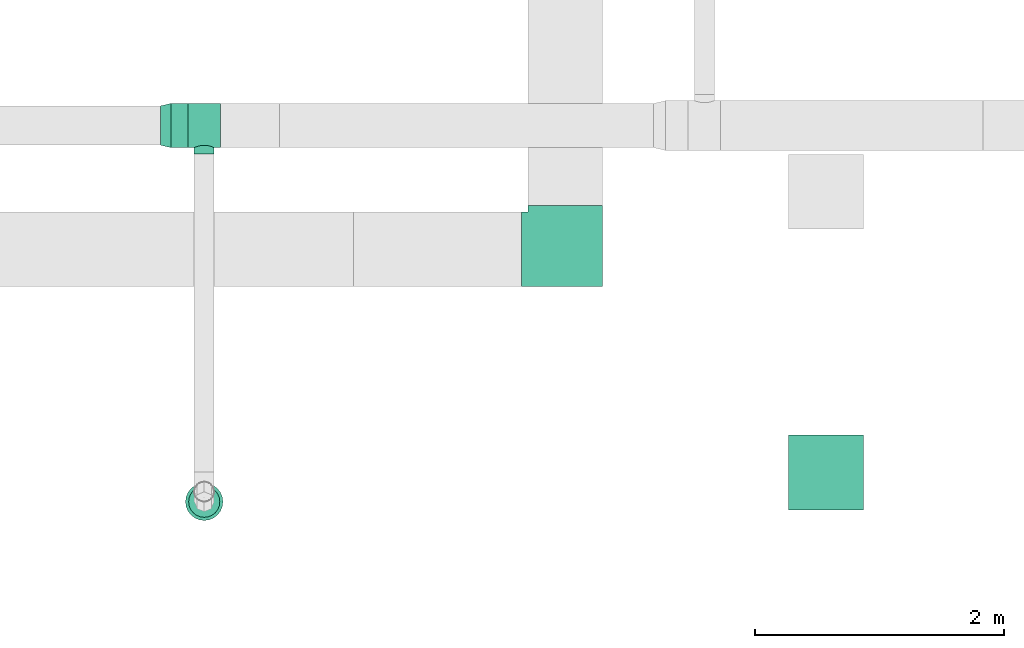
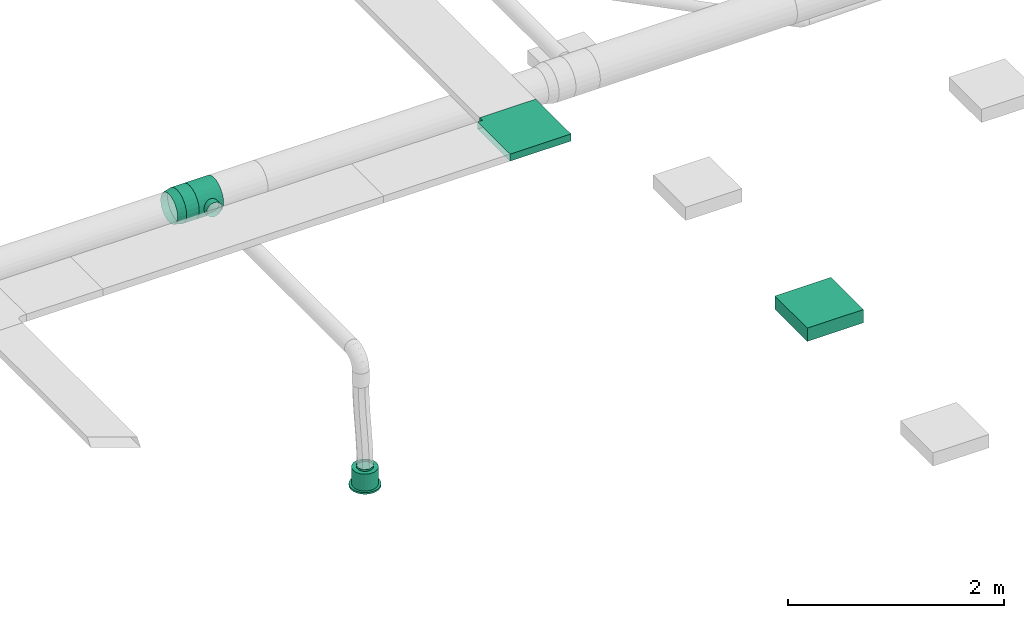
# One storey, part 63 of 374: 2 distribution elements, 2 flow fittings, 1 flow segment, 1 flow terminal.
"""IFC2X3 building model written with IfcOpenShell, lengths in metres."""

from ifc_helpers import new_model, si_unit, direction, frame, frame_2d, origin, place, context, subcontext, project, spatial, rectangle, extrude, open_shell, surface_model, source, transform, mapped, element, save


model = new_model("IFC2X3")

# Units and contexts
model_context = context("Model", 3, precision=1e-05, world=origin(), true_north=direction((-0.4480736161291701, 0.8939966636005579)))
body_context = subcontext(model_context, "Body", "Model", "MODEL_VIEW")
ifc_project = project(units=[si_unit("LENGTHUNIT", "METRE"), si_unit("AREAUNIT", "SQUARE_METRE"), si_unit("VOLUMEUNIT", "CUBIC_METRE"), si_unit("PLANEANGLEUNIT", "RADIAN"), si_unit("THERMODYNAMICTEMPERATUREUNIT", "KELVIN"), si_unit("MASSUNIT", "GRAM", prefix="KILO"), si_unit("TIMEUNIT", "SECOND")], contexts=[model_context])

# Site, building, storey
site_placement = place(None, origin())
site = spatial("IfcSite", under=ifc_project, at=site_placement, Name="Site 1", CompositionType="ELEMENT")
building_placement = place(site_placement, origin())
building = spatial("IfcBuilding", under=site, at=building_placement, Name="Undefined", CompositionType="ELEMENT")
storey_placement = place(building_placement, origin())
storey = spatial("IfcBuildingStorey", under=building, at=storey_placement, Name="Rez de chauss\x8ee", CompositionType="ELEMENT", Elevation=0.0)

# Flow terminal
shared_shape_1 = source(origin(), body_context, "Body", "SurfaceModel", [
    surface_model("IfcFaceBasedSurfaceModel", [(0.0, 0.0, 0.0), (0.03915785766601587, 0.0, 0.0), (0.03915785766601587, 0.020000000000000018, 0.0), (3.552713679e-15, 0.020000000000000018, 0.0), (0.07698144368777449, 0.0, -0.010134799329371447), (0.07698144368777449, 0.020000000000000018, -0.010134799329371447), (0.11089314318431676, 0.0, -0.02971372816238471), (0.11089314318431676, 0.020000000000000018, -0.02971372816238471), (0.13858192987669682, 0.0, -0.05740251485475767), (0.13858192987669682, 0.020000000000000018, -0.05740251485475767), (0.15816085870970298, 0.0, -0.09131421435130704), (0.15816085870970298, 0.020000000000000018, -0.09131421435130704), (0.16829565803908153, 0.0, -0.12913780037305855), (0.16829565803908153, 0.020000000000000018, -0.12913780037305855), (0.16829565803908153, 0.0, -0.16829565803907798), (0.16829565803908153, 0.020000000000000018, -0.16829565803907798), (0.15816085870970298, 0.0, -0.20611924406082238), (0.15816085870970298, 0.020000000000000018, -0.20611924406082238), (0.13858192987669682, 0.0, -0.24003094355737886), (0.13858192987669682, 0.020000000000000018, -0.24003094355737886), (0.11089314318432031, 0.0, -0.2677197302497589), (0.11089314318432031, 0.020000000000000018, -0.2677197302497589), (0.07698144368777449, 0.0, -0.2872986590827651), (0.07698144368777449, 0.020000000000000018, -0.2872986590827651), (0.039157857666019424, 0.0, -0.29743345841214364), (0.039157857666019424, 0.020000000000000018, -0.29743345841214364), (3.552713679e-15, 0.0, -0.29743345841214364), (3.552713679e-15, 0.020000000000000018, -0.29743345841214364), (-0.03782358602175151, 0.0, -0.2872986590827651), (-0.03782358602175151, 0.020000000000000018, -0.2872986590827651), (-0.07173528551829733, 0.0, -0.2677197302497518), (-0.07173528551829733, 0.020000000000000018, -0.2677197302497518), (-0.0994240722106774, 0.0, -0.24003094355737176), (-0.0994240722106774, 0.020000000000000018, -0.24003094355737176), (-0.11900300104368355, 0.0, -0.2061192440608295), (-0.11900300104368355, 0.020000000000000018, -0.2061192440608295), (-0.1291378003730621, 0.0, -0.16829565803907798), (-0.1291378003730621, 0.020000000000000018, -0.16829565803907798), (-0.1291378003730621, 0.0, -0.12913780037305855), (-0.1291378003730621, 0.020000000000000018, -0.12913780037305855), (-0.11900300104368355, 0.0, -0.09131421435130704), (-0.11900300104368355, 0.020000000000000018, -0.09131421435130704), (-0.0994240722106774, 0.0, -0.05740251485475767), (-0.0994240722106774, 0.020000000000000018, -0.05740251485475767), (-0.07173528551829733, 0.0, -0.029713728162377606), (-0.07173528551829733, 0.020000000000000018, -0.029713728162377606), (-0.03782358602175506, 0.0, -0.010134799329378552), (-0.03782358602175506, 0.020000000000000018, -0.010134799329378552), (0.019578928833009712, 0.0, -0.14871672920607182), (0.019578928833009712, 0.020000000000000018, -0.14871672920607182), (0.003263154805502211, 0.020000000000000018, -0.02478612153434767), (0.035894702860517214, 0.020000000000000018, -0.02478612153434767), (0.035894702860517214, 0.20999999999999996, -0.02478612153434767), (0.003263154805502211, 0.20999999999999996, -0.02478612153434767), (0.06741435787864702, 0.020000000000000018, -0.033231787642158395), (0.06741435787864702, 0.20999999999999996, -0.033231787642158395), (0.0956741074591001, 0.020000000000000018, -0.04954756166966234), (0.0956741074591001, 0.20999999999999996, -0.04954756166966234), (0.11874809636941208, 0.020000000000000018, -0.07262155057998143), (0.11874809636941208, 0.20999999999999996, -0.07262155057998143), (0.13506387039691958, 0.020000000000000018, -0.10088130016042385), (0.13506387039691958, 0.20999999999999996, -0.10088130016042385), (0.1435095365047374, 0.020000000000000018, -0.13240095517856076), (0.1435095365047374, 0.20999999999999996, -0.13240095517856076), (0.1435095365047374, 0.020000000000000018, -0.16503250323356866), (0.1435095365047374, 0.20999999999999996, -0.16503250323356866), (0.13506387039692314, 0.020000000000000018, -0.19655215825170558), (0.13506387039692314, 0.20999999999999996, -0.19655215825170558), (0.11874809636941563, 0.020000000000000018, -0.2248119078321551), (0.11874809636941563, 0.20999999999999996, -0.2248119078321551), (0.09567410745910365, 0.020000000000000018, -0.24788589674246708), (0.09567410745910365, 0.20999999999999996, -0.24788589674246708), (0.06741435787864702, 0.020000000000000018, -0.26420167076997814), (0.06741435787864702, 0.20999999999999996, -0.26420167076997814), (0.035894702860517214, 0.020000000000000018, -0.27264733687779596), (0.035894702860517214, 0.20999999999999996, -0.27264733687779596), (0.0032631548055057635, 0.020000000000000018, -0.27264733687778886), (0.0032631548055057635, 0.20999999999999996, -0.27264733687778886), (-0.028256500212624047, 0.020000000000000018, -0.26420167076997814), (-0.028256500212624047, 0.20999999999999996, -0.26420167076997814), (-0.05651624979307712, 0.020000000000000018, -0.2478858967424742), (-0.05651624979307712, 0.20999999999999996, -0.2478858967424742), (-0.07959023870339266, 0.020000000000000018, -0.2248119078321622), (-0.07959023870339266, 0.20999999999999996, -0.2248119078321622), (-0.09590601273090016, 0.020000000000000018, -0.19655215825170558), (-0.09590601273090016, 0.20999999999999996, -0.19655215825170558), (-0.10435167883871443, 0.020000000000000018, -0.16503250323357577), (-0.10435167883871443, 0.20999999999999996, -0.16503250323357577), (-0.10435167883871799, 0.020000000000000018, -0.13240095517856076), (-0.10435167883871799, 0.20999999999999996, -0.13240095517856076), (-0.09590601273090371, 0.020000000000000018, -0.10088130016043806), (-0.09590601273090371, 0.20999999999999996, -0.10088130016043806), (-0.07959023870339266, 0.020000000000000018, -0.07262155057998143), (-0.07959023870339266, 0.20999999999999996, -0.07262155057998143), (-0.056516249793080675, 0.020000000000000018, -0.04954756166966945), (-0.056516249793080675, 0.20999999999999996, -0.04954756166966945), (-0.028256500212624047, 0.020000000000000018, -0.033231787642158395), (-0.028256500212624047, 0.20999999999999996, -0.033231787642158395), (0.019578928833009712, 0.20999999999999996, -0.14871672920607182), (0.009136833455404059, 0.20999999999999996, -0.06940114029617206), (0.030021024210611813, 0.20999999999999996, -0.06940114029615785), (0.030021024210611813, 0.22999999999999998, -0.06940114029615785), (0.009136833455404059, 0.22999999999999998, -0.06940114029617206), (0.05019360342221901, 0.20999999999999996, -0.07480636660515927), (0.05019360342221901, 0.22999999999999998, -0.07480636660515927), (0.06827984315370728, 0.20999999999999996, -0.08524846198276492), (0.06827984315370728, 0.22999999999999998, -0.08524846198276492), (0.0830471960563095, 0.20999999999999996, -0.10001581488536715), (0.0830471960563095, 0.22999999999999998, -0.10001581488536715), (0.0934892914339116, 0.20999999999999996, -0.11810205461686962), (0.0934892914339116, 0.22999999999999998, -0.11810205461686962), (0.09889451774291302, 0.20999999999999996, -0.13827463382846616), (0.09889451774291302, 0.22999999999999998, -0.13827463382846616), (0.09889451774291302, 0.20999999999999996, -0.15915882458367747), (0.09889451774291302, 0.22999999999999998, -0.15915882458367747), (0.09348929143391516, 0.20999999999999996, -0.179331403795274), (0.09348929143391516, 0.22999999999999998, -0.179331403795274), (0.0830471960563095, 0.20999999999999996, -0.19741764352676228), (0.0830471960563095, 0.22999999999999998, -0.19741764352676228), (0.06827984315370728, 0.20999999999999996, -0.2121849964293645), (0.06827984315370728, 0.22999999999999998, -0.2121849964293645), (0.05019360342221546, 0.20999999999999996, -0.22262709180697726), (0.05019360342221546, 0.22999999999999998, -0.22262709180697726), (0.030021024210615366, 0.20999999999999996, -0.22803231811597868), (0.030021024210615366, 0.22999999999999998, -0.22803231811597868), (0.009136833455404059, 0.20999999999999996, -0.22803231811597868), (0.009136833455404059, 0.22999999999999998, -0.22803231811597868), (-0.011035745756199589, 0.20999999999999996, -0.22262709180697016), (-0.011035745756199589, 0.22999999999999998, -0.22262709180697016), (-0.0291219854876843, 0.20999999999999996, -0.2121849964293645), (-0.0291219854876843, 0.22999999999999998, -0.2121849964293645), (-0.043889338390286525, 0.20999999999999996, -0.19741764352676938), (-0.043889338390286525, 0.22999999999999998, -0.19741764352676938), (-0.05433143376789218, 0.20999999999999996, -0.17933140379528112), (-0.05433143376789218, 0.22999999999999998, -0.17933140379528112), (-0.05973666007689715, 0.20999999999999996, -0.15915882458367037), (-0.05973666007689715, 0.22999999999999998, -0.15915882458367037), (-0.0597366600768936, 0.20999999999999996, -0.13827463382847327), (-0.0597366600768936, 0.22999999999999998, -0.13827463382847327), (-0.05433143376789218, 0.20999999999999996, -0.11810205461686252), (-0.05433143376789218, 0.22999999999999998, -0.11810205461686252), (-0.043889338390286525, 0.20999999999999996, -0.10001581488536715), (-0.043889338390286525, 0.22999999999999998, -0.10001581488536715), (-0.02912198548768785, 0.20999999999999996, -0.08524846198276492), (-0.02912198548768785, 0.22999999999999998, -0.08524846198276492), (-0.011035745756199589, 0.20999999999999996, -0.07480636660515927), (-0.011035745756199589, 0.22999999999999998, -0.07480636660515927)], [open_shell([[[0, 1, 2, 3]], [[1, 4, 5, 2]], [[4, 6, 7, 5]], [[6, 8, 9, 7]], [[8, 10, 11, 9]], [[10, 12, 13, 11]], [[12, 14, 15, 13]], [[14, 16, 17, 15]], [[16, 18, 19, 17]], [[18, 20, 21, 19]], [[20, 22, 23, 21]], [[22, 24, 25, 23]], [[24, 26, 27, 25]], [[26, 28, 29, 27]], [[28, 30, 31, 29]], [[30, 32, 33, 31]], [[32, 34, 35, 33]], [[34, 36, 37, 35]], [[36, 38, 39, 37]], [[38, 40, 41, 39]], [[40, 42, 43, 41]], [[42, 44, 45, 43]], [[44, 46, 47, 45]], [[46, 0, 3, 47]], [[48, 1, 0]], [[48, 4, 1]], [[48, 6, 4]], [[48, 8, 6]], [[48, 10, 8]], [[48, 12, 10]], [[48, 14, 12]], [[48, 16, 14]], [[48, 18, 16]], [[48, 20, 18]], [[48, 22, 20]], [[48, 24, 22]], [[48, 26, 24]], [[48, 28, 26]], [[48, 30, 28]], [[48, 32, 30]], [[48, 34, 32]], [[48, 36, 34]], [[48, 38, 36]], [[48, 40, 38]], [[48, 42, 40]], [[48, 44, 42]], [[48, 46, 44]], [[48, 0, 46]], [[49, 47, 3]], [[49, 45, 47]], [[49, 43, 45]], [[49, 41, 43]], [[49, 39, 41]], [[49, 37, 39]], [[49, 35, 37]], [[49, 33, 35]], [[49, 31, 33]], [[49, 29, 31]], [[49, 27, 29]], [[49, 25, 27]], [[49, 23, 25]], [[49, 21, 23]], [[49, 19, 21]], [[49, 17, 19]], [[49, 15, 17]], [[49, 13, 15]], [[49, 11, 13]], [[49, 9, 11]], [[49, 7, 9]], [[49, 5, 7]], [[49, 2, 5]], [[49, 3, 2]], [[50, 51, 52, 53]], [[51, 54, 55, 52]], [[54, 56, 57, 55]], [[56, 58, 59, 57]], [[58, 60, 61, 59]], [[60, 62, 63, 61]], [[62, 64, 65, 63]], [[64, 66, 67, 65]], [[66, 68, 69, 67]], [[68, 70, 71, 69]], [[70, 72, 73, 71]], [[72, 74, 75, 73]], [[74, 76, 77, 75]], [[76, 78, 79, 77]], [[78, 80, 81, 79]], [[80, 82, 83, 81]], [[82, 84, 85, 83]], [[84, 86, 87, 85]], [[86, 88, 89, 87]], [[88, 90, 91, 89]], [[90, 92, 93, 91]], [[92, 94, 95, 93]], [[94, 96, 97, 95]], [[96, 50, 53, 97]], [[49, 51, 50]], [[49, 54, 51]], [[49, 56, 54]], [[49, 58, 56]], [[49, 60, 58]], [[49, 62, 60]], [[49, 64, 62]], [[49, 66, 64]], [[49, 68, 66]], [[49, 70, 68]], [[49, 72, 70]], [[49, 74, 72]], [[49, 76, 74]], [[49, 78, 76]], [[49, 80, 78]], [[49, 82, 80]], [[49, 84, 82]], [[49, 86, 84]], [[49, 88, 86]], [[49, 90, 88]], [[49, 92, 90]], [[49, 94, 92]], [[49, 96, 94]], [[49, 50, 96]], [[98, 97, 53]], [[98, 95, 97]], [[98, 93, 95]], [[98, 91, 93]], [[98, 89, 91]], [[98, 87, 89]], [[98, 85, 87]], [[98, 83, 85]], [[98, 81, 83]], [[98, 79, 81]], [[98, 77, 79]], [[98, 75, 77]], [[98, 73, 75]], [[98, 71, 73]], [[98, 69, 71]], [[98, 67, 69]], [[98, 65, 67]], [[98, 63, 65]], [[98, 61, 63]], [[98, 59, 61]], [[98, 57, 59]], [[98, 55, 57]], [[98, 52, 55]], [[98, 53, 52]], [[99, 100, 101, 102]], [[100, 103, 104, 101]], [[103, 105, 106, 104]], [[105, 107, 108, 106]], [[107, 109, 110, 108]], [[109, 111, 112, 110]], [[111, 113, 114, 112]], [[113, 115, 116, 114]], [[115, 117, 118, 116]], [[117, 119, 120, 118]], [[119, 121, 122, 120]], [[121, 123, 124, 122]], [[123, 125, 126, 124]], [[125, 127, 128, 126]], [[127, 129, 130, 128]], [[129, 131, 132, 130]], [[131, 133, 134, 132]], [[133, 135, 136, 134]], [[135, 137, 138, 136]], [[137, 139, 140, 138]], [[139, 141, 142, 140]], [[141, 143, 144, 142]], [[143, 145, 146, 144]], [[145, 99, 102, 146]]])]),
])
flow_terminal_placement = place(storey_placement, origin())
element("IfcFlowTerminal", 1, at=flow_terminal_placement, inside=storey, Name="Air diffuseur - bouche", ObjectType="Air diffuseur - bouche", context=body_context, shape_type="MappedRepresentation", body=[
    mapped(shared_shape_1, transform((30.964625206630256, 8.051611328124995, 2.38), x_axis=(-0.9914448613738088, -0.13052619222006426, 0.0), y_axis=(0.0, 0.0, 1.0), z_axis=(-0.13052619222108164, 0.9914448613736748, 0.0))),
])

# Flow fitting
shared_shape_2 = source(origin(), body_context, "Body", "SurfaceModel", [
    surface_model("IfcFaceBasedSurfaceModel", [(0.0, 0.046336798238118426, 0.0), (0.0, 0.0, 0.0), (0.2599999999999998, -7.105427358e-15, 0.0), (0.259999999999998, 0.04633679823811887, 0.0), (0.0, -0.044757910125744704, -0.0119928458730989), (0.259999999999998, -0.04475791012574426, -0.0119928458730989), (0.0, -0.08488675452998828, -0.035161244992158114), (0.259999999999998, -0.08488675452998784, -0.03516124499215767), (0.0, -0.11765181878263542, -0.06792630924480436), (0.259999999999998, -0.11765181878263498, -0.06792630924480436), (0.0, -0.1408202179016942, -0.10805515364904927), (0.259999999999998, -0.14082021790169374, -0.10805515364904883), (0.0, -0.15281306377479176, -0.15281306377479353), (0.259999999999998, -0.1528130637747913, -0.15281306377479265), (0.0, -0.1528130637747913, -0.19914986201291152), (0.259999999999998, -0.15281306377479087, -0.19914986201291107), (0.0, -0.14082021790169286, -0.24390777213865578), (0.259999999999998, -0.14082021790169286, -0.24390777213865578), (0.0, -0.11765181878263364, -0.2840366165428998), (0.259999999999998, -0.1176518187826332, -0.28403661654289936), (0.0, -0.0848867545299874, -0.31680168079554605), (0.259999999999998, -0.08488675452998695, -0.31680168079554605), (0.0, -0.044757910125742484, -0.3399700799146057), (0.259999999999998, -0.04475791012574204, -0.33997007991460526), (0.0, 1.776356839e-15, -0.35196292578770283), (0.259999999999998, 2.220446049e-15, -0.35196292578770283), (0.0, 0.0463367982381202, -0.3519629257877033), (0.259999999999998, 0.04633679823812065, -0.35196292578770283), (0.0, 0.09109470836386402, -0.3399700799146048), (0.259999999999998, 0.09109470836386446, -0.3399700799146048), (0.0, 0.13122355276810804, -0.31680168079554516), (0.259999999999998, 0.1312235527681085, -0.3168016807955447), (0.0, 0.16398861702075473, -0.2840366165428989), (0.259999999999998, 0.16398861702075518, -0.2840366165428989), (0.0, 0.18715701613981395, -0.243907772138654), (0.259999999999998, 0.18715701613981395, -0.24390777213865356), (0.0, 0.19914986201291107, -0.19914986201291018), (0.259999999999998, 0.19914986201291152, -0.1991498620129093), (0.0, 0.19914986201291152, -0.15281306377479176), (0.259999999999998, 0.19914986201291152, -0.1528130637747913), (0.0, 0.18715701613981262, -0.1080551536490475), (0.259999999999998, 0.18715701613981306, -0.1080551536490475), (0.0, 0.1639886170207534, -0.06792630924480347), (0.259999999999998, 0.16398861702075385, -0.06792630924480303), (0.0, 0.1312235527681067, -0.03516124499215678), (0.259999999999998, 0.13122355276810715, -0.03516124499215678), (0.0, 0.09109470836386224, -0.011992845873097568), (0.259999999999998, 0.09109470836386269, -0.011992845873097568), (0.21000000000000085, 0.19914986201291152, -0.1991498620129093), (0.2072740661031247, 0.1952458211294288, -0.2195200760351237), (0.2072740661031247, 0.2484981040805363, -0.2265308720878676), (0.21000000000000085, 0.251200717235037, -0.2060024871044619), (0.19928203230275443, 0.18940211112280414, -0.23821170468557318), (0.19928203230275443, 0.24597966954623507, -0.24566028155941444), (0.18656854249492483, 0.18258998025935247, -0.25402638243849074), (0.18656854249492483, 0.24381704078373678, -0.2620870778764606), (0.1699999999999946, 0.17614766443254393, -0.2660014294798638), (0.1699999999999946, 0.242157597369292, -0.27469180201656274), (0.15070552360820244, 0.17151167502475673, -0.2734520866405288), (0.15070552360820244, 0.24111442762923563, -0.28261546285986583), (0.12999999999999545, 0.16982026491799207, -0.27597886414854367), (0.12999999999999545, 0.24075862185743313, -0.285318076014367), (0.10929447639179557, 0.17151167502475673, -0.2734520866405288), (0.10929447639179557, 0.24111442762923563, -0.28261546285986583), (0.0899999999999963, 0.17614766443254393, -0.2660014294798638), (0.0899999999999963, 0.242157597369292, -0.27469180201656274), (0.07343145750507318, 0.18258998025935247, -0.25402638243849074), (0.07343145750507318, 0.24381704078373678, -0.2620870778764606), (0.06071796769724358, 0.18940211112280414, -0.23821170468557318), (0.06071796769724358, 0.24597966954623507, -0.24566028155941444), (0.0527259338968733, 0.1952458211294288, -0.2195200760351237), (0.0527259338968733, 0.2484981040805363, -0.2265308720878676), (0.04999999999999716, 0.19914986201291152, -0.1991498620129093), (0.04999999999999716, 0.251200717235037, -0.2060024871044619), (0.0527259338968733, 0.2006510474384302, -0.1784633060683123), (0.0527259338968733, 0.2539033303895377, -0.1854741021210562), (0.06071796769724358, 0.19984420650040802, -0.15889611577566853), (0.06071796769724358, 0.25642176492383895, -0.1663446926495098), (0.07343145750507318, 0.19735733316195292, -0.14185720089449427), (0.07343145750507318, 0.25858439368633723, -0.1499178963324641), (0.0899999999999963, 0.19423390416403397, -0.12862279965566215), (0.0899999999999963, 0.260243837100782, -0.13731317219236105), (0.10929447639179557, 0.1916842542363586, -0.12022613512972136), (0.10929447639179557, 0.2612870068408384, -0.1293895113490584), (0.12999999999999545, 0.19070445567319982, -0.11734768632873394), (0.12999999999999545, 0.2616428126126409, -0.12668689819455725), (0.15070552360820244, 0.1916842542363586, -0.12022613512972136), (0.15070552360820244, 0.2612870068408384, -0.1293895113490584), (0.1699999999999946, 0.19423390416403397, -0.12862279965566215), (0.1699999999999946, 0.260243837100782, -0.13731317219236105), (0.18656854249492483, 0.19735733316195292, -0.14185720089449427), (0.18656854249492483, 0.25858439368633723, -0.1499178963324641), (0.19928203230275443, 0.19984420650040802, -0.15889611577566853), (0.19928203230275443, 0.25642176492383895, -0.1663446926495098), (0.2072740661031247, 0.2006510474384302, -0.1784633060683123), (0.2072740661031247, 0.2539033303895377, -0.1854741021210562)], [open_shell([[[0, 1, 2, 3]], [[1, 4, 5, 2]], [[4, 6, 7, 5]], [[6, 8, 9, 7]], [[8, 10, 11, 9]], [[10, 12, 13, 11]], [[12, 14, 15, 13]], [[14, 16, 17, 15]], [[16, 18, 19, 17]], [[18, 20, 21, 19]], [[20, 22, 23, 21]], [[22, 24, 25, 23]], [[24, 26, 27, 25]], [[26, 28, 29, 27]], [[28, 30, 31, 29]], [[30, 32, 33, 31]], [[32, 34, 35, 33]], [[34, 36, 37, 35]], [[36, 38, 39, 37]], [[38, 40, 41, 39]], [[40, 42, 43, 41]], [[42, 44, 45, 43]], [[44, 46, 47, 45]], [[46, 0, 3, 47]], [[48, 49, 50, 51]], [[49, 52, 53, 50]], [[52, 54, 55, 53]], [[54, 56, 57, 55]], [[56, 58, 59, 57]], [[58, 60, 61, 59]], [[60, 62, 63, 61]], [[62, 64, 65, 63]], [[64, 66, 67, 65]], [[66, 68, 69, 67]], [[68, 70, 71, 69]], [[70, 72, 73, 71]], [[72, 74, 75, 73]], [[74, 76, 77, 75]], [[76, 78, 79, 77]], [[78, 80, 81, 79]], [[80, 82, 83, 81]], [[82, 84, 85, 83]], [[84, 86, 87, 85]], [[86, 88, 89, 87]], [[88, 90, 91, 89]], [[90, 92, 93, 91]], [[92, 94, 95, 93]], [[94, 48, 51, 95]]])]),
])
flow_fitting_1_placement = place(storey_placement, origin())
element("IfcFlowFitting", 2, at=flow_fitting_1_placement, inside=storey, Name="Pièce en té 90°", ObjectType="Pièce en té 90°", context=body_context, shape_type="MappedRepresentation", body=[
    mapped(shared_shape_2, transform((30.834625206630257, 10.9651343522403, 3.6285481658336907), x_axis=(1.0, 0.0, 0.0), y_axis=(0.0, -0.9914448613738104, -0.13052619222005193), z_axis=(0.0, 0.13052619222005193, -0.9914448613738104))),
])

# Flow segment
shared_shape_3 = source(origin(), body_context, "Body", "SurfaceModel", [
    surface_model("IfcFaceBasedSurfaceModel", [(0.0, 0.046336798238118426, 0.0), (0.0, 0.0, 0.0), (0.13500000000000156, -7.105427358e-15, 8.8817842e-16), (0.13500000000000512, 0.046336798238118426, 0.0), (0.0, -0.044757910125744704, -0.0119928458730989), (0.13500000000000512, -0.044757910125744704, -0.0119928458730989), (0.0, -0.08488675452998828, -0.035161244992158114), (0.13500000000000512, -0.08488675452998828, -0.035161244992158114), (0.0, -0.11765181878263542, -0.06792630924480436), (0.13500000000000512, -0.11765181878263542, -0.06792630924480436), (0.0, -0.1408202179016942, -0.10805515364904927), (0.13500000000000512, -0.1408202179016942, -0.10805515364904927), (0.0, -0.15281306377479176, -0.15281306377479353), (0.13500000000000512, -0.15281306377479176, -0.15281306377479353), (0.0, -0.1528130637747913, -0.19914986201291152), (0.13500000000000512, -0.1528130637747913, -0.19914986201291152), (0.0, -0.14082021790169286, -0.24390777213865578), (0.13500000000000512, -0.14082021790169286, -0.24390777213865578), (0.0, -0.11765181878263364, -0.2840366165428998), (0.13500000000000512, -0.11765181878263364, -0.2840366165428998), (0.0, -0.0848867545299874, -0.31680168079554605), (0.13500000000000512, -0.0848867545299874, -0.31680168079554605), (0.0, -0.044757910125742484, -0.3399700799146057), (0.13500000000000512, -0.044757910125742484, -0.3399700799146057), (0.0, 1.776356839e-15, -0.35196292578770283), (0.13500000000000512, 1.776356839e-15, -0.35196292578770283), (0.0, 0.0463367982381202, -0.3519629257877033), (0.13500000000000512, 0.0463367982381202, -0.3519629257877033), (0.0, 0.09109470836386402, -0.3399700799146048), (0.13500000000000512, 0.09109470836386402, -0.3399700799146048), (0.0, 0.13122355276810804, -0.31680168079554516), (0.13500000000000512, 0.13122355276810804, -0.31680168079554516), (0.0, 0.16398861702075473, -0.2840366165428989), (0.13500000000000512, 0.16398861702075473, -0.2840366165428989), (0.0, 0.18715701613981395, -0.243907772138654), (0.13500000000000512, 0.18715701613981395, -0.243907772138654), (0.0, 0.19914986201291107, -0.19914986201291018), (0.13500000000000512, 0.19914986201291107, -0.19914986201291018), (0.0, 0.19914986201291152, -0.15281306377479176), (0.13500000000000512, 0.19914986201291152, -0.15281306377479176), (0.0, 0.18715701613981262, -0.1080551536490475), (0.13500000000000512, 0.18715701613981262, -0.1080551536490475), (0.0, 0.1639886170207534, -0.06792630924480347), (0.13500000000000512, 0.1639886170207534, -0.06792630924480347), (0.0, 0.1312235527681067, -0.03516124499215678), (0.13500000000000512, 0.1312235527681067, -0.03516124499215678), (0.0, 0.09109470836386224, -0.011992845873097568), (0.13500000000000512, 0.09109470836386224, -0.011992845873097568)], [open_shell([[[0, 1, 2, 3]], [[1, 4, 5, 2]], [[4, 6, 7, 5]], [[6, 8, 9, 7]], [[8, 10, 11, 9]], [[10, 12, 13, 11]], [[12, 14, 15, 13]], [[14, 16, 17, 15]], [[16, 18, 19, 17]], [[18, 20, 21, 19]], [[20, 22, 23, 21]], [[22, 24, 25, 23]], [[24, 26, 27, 25]], [[26, 28, 29, 27]], [[28, 30, 31, 29]], [[30, 32, 33, 31]], [[32, 34, 35, 33]], [[34, 36, 37, 35]], [[36, 38, 39, 37]], [[38, 40, 41, 39]], [[40, 42, 43, 41]], [[42, 44, 45, 43]], [[44, 46, 47, 45]], [[46, 0, 3, 47]]])]),
])
flow_segment_placement = place(storey_placement, origin())
element("IfcFlowSegment", 3, at=flow_segment_placement, inside=storey, Name="Manchon", ObjectType="Manchon", context=body_context, shape_type="MappedRepresentation", body=[
    mapped(shared_shape_3, transform((30.834625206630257, 10.9651343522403, 3.9714518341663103), x_axis=(-1.0, 0.0, 0.0), y_axis=(7.266545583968e-12, -0.9914448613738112, 0.13052619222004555), z_axis=(0.0, 0.13052619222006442, 0.9914448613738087))),
])

# Flow fitting
shared_shape_4 = source(origin(), body_context, "Body", "SurfaceModel", [
    surface_model("IfcFaceBasedSurfaceModel", [(0.08732124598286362, 1.776356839e-15, 7.105427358e-15), (0.08593597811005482, 0.0463160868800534, 0.0), (-0.0012291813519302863, 0.04109737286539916, 4.4408921e-16), (0.0, 0.0, 0.0), (0.08187457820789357, 0.09097253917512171, -0.011679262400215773), (-0.004832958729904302, 0.08072211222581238, -0.010363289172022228), (0.07541382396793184, 0.13092609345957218, -0.0342418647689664), (-0.010565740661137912, 0.1161738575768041, -0.030383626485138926), (0.06699400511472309, 0.16345398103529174, -0.06615020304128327), (-0.018036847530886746, 0.1450366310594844, -0.05869665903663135), (0.05718891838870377, 0.18633948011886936, -0.1052297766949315), (-0.02673713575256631, 0.1653434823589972, -0.09337290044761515), (0.04666676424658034, 0.1980229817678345, -0.14881737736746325), (-0.03607369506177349, 0.17571053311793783, -0.1320492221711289), (0.03614461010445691, 0.1977082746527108, -0.19394258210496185), (-0.045410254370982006, 0.1754312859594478, -0.17208989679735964), (0.02633952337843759, 0.1854168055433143, -0.2375301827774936), (-0.05411054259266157, 0.16452477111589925, -0.2107662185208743), (0.017919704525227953, 0.16198621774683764, -0.2766097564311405), (-0.061581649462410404, 0.14373424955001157, -0.2454424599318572), (0.011458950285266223, 0.12901326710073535, -0.30851809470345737), (-0.06731443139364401, 0.11447656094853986, -0.2737554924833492), (0.007397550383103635, 0.08874500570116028, -0.3310806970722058), (-0.07091820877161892, 0.07874556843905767, -0.29377582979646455), (0.006012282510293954, 0.04392564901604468, -0.34275995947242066), (-0.0721473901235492, 0.03897628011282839, -0.3041391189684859), (0.007397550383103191, -0.002390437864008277, -0.3427599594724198), (-0.07091820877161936, -0.0021210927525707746, -0.30413911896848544), (0.011458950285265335, -0.04704689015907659, -0.331080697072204), (-0.0673144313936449, -0.041745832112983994, -0.29377582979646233), (0.01791970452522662, -0.08700044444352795, -0.3085180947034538), (-0.061581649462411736, -0.07719757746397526, -0.2737554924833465), (0.026339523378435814, -0.11952833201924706, -0.2766097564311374), (-0.0541105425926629, -0.106060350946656, -0.2454424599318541), (0.03614461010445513, -0.14241383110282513, -0.23753018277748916), (-0.04541025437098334, -0.12636720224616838, -0.21076621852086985), (0.04666676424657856, -0.15409733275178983, -0.1939425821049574), (-0.03607369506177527, -0.13673425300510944, -0.1720898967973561), (0.05718891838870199, -0.15378262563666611, -0.14881737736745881), (-0.026737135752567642, -0.13645500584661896, -0.13204922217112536), (0.06699400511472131, -0.14149115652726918, -0.10522977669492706), (-0.018036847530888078, -0.12554849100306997, -0.09337290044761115), (0.0754138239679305, -0.11806056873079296, -0.06615020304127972), (-0.010565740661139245, -0.1047579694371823, -0.05869665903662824), (0.08187457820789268, -0.08508761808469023, -0.03424186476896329), (-0.00483295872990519, -0.07550028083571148, -0.03038362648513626), (0.08593597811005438, -0.04481935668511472, -0.011679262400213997), (-0.0012291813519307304, -0.039769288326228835, -0.010363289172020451)], [open_shell([[[0, 1, 2, 3]], [[1, 4, 5, 2]], [[4, 6, 7, 5]], [[6, 8, 9, 7]], [[8, 10, 11, 9]], [[10, 12, 13, 11]], [[12, 14, 15, 13]], [[14, 16, 17, 15]], [[16, 18, 19, 17]], [[18, 20, 21, 19]], [[20, 22, 23, 21]], [[22, 24, 25, 23]], [[24, 26, 27, 25]], [[26, 28, 29, 27]], [[28, 30, 31, 29]], [[30, 32, 33, 31]], [[32, 34, 35, 33]], [[34, 36, 37, 35]], [[36, 38, 39, 37]], [[38, 40, 41, 39]], [[40, 42, 43, 41]], [[42, 44, 45, 43]], [[44, 46, 47, 45]], [[46, 0, 3, 47]]])]),
])
flow_fitting_2_placement = place(storey_placement, origin())
element("IfcFlowFitting", 4, at=flow_fitting_2_placement, inside=storey, Name="Réduction conique", ObjectType="Réduction conique", context=body_context, shape_type="MappedRepresentation", body=[
    mapped(shared_shape_4, transform((30.614625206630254, 11.076693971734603, 3.8000000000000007), x_axis=(0.9734171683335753, 0.22903933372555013, 0.0), y_axis=(0.029113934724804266, -0.12373422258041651, -0.9918882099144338), z_axis=(-0.22718141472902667, 0.9655210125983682, -0.12711325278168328))),
])

# Distribution elements
shared_shape_5 = source(origin(), body_context, "Body", "SurfaceModel", [
    surface_model("IfcFaceBasedSurfaceModel", [(0.0, 0.049999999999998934, 0.0), (0.0, 0.0, 0.0), (0.08000000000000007, 0.0, 5.82867088e-16), (0.08000000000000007, 0.04999999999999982, 0.0), (0.0, 0.0, 0.04999999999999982), (0.08000000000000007, 0.0, 0.04999999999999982), (0.0, -0.5999999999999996, 0.04999999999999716), (0.0, -0.5999999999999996, -0.6000000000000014), (0.08000000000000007, -0.5999999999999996, -0.6000000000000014), (0.08000000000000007, -0.5999999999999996, 0.04999999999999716), (0.0, 0.05000000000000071, -0.6000000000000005), (0.08000000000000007, 0.05000000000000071, -0.6000000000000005)], [open_shell([[[0, 1, 2, 3]], [[1, 4, 5, 2]], [[6, 7, 8, 9]], [[7, 10, 11, 8]], [[2, 5, 9]], [[2, 9, 8]], [[2, 8, 11]], [[2, 11, 3]], [[6, 4, 1]], [[7, 6, 1]], [[10, 7, 1]], [[0, 10, 1]]])]),
])
distribution_element_1_placement = place(storey_placement, origin())
element("IfcDistributionElement", 5, at=distribution_element_1_placement, inside=storey, Name="Angle", ObjectType="Angle", context=body_context, shape_type="MappedRepresentation", body=[
    mapped(shared_shape_5, transform((33.561, 10.226369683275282, 4.1), x_axis=(0.0, 0.0, 1.0), y_axis=(0.0, 1.0, 0.0), z_axis=(-1.0, 0.0, 0.0))),
])
distribution_element_2_placement = place(storey_placement, origin())
element("IfcDistributionElement", 6, at=distribution_element_2_placement, inside=storey, Name="Decken-Rechteckleuchte mit Rahmen AP", ObjectType="Decken-Rechteckleuchte mit Rahmen AP", context=body_context, shape_type="SweptSolid", body=[
    extrude(rectangle(XDim=0.6000000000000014, YDim=0.6000000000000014, at=frame_2d((3.552713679e-15, 0.0), x_axis=(0.0, 1.0))), frame((35.95181062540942, 8.1375, 2.5500000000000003), z_axis=(0.0, 0.0, -1.0), x_axis=(1.0, 0.0, 0.0)), (0.0, 0.0, 1.0), 0.15),
])

save(model, "model.ifc")
